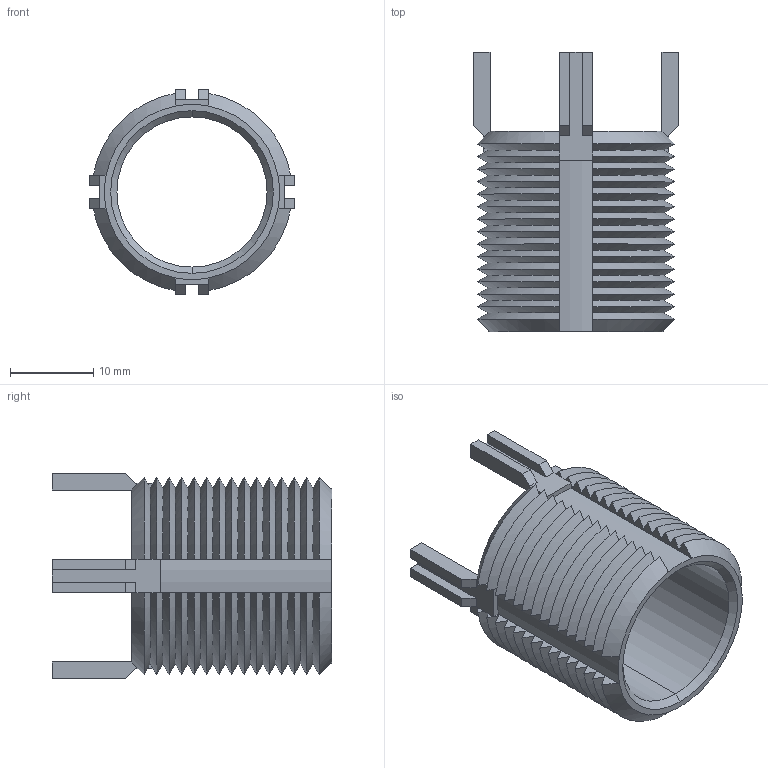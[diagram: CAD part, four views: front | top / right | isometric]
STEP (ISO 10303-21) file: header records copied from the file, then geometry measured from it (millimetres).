
FILE_DESCRIPTION (( 'STEP AP203' ), '1' );
FILE_NAME ('22002.W5720.step', '2023-03-20T19:30:00', ( '' ), ( '' ), 'SwSTEP 2.0', 'SolidWorks 2019', '' );
FILE_SCHEMA (( 'CONFIG_CONTROL_DESIGN' ));
Length unit declared in the file: millimetre
Products named in the file (1): 22002.W5720
Bounding box: 24.62 x 33.5 x 24.62 mm (x, y, z)
Volume: 3511.9 mm3; surface area: 5163.5 mm2
Topology: 1 solids, 1 shells, 220 faces, 594 edges, 376 vertices
Faces by surface type: cone 124, plane 90, cylinder 6
Entity records: 7863 total; most frequent: CARTESIAN_POINT 2715, ORIENTED_EDGE 1188, DIRECTION 896, EDGE_CURVE 594, VERTEX_POINT 376, AXIS2_PLACEMENT_3D 361, B_SPLINE_CURVE_WITH_KNOTS 280, EDGE_LOOP 222
